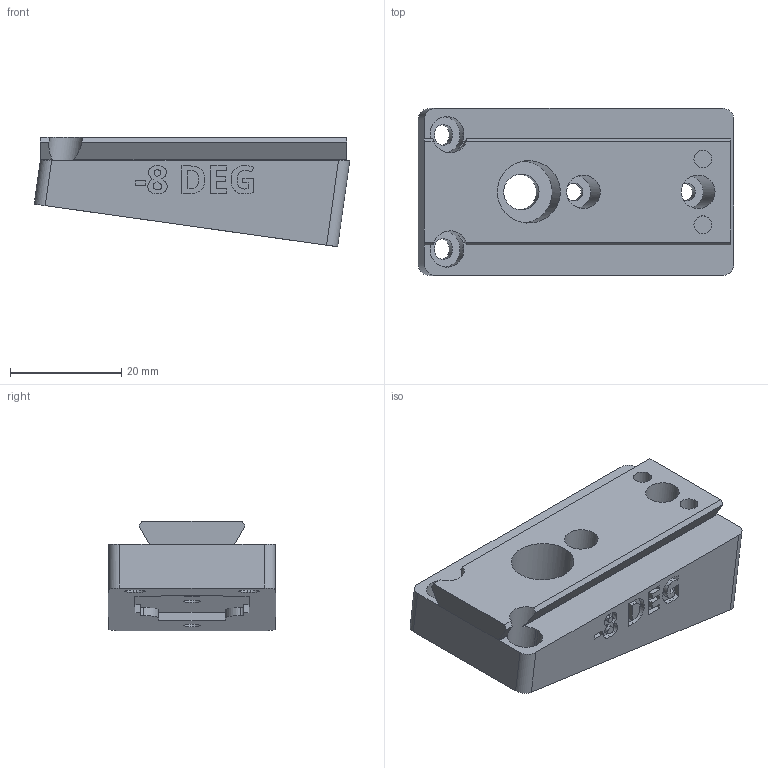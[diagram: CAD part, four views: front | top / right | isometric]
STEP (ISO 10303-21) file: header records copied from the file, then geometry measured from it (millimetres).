
FILE_DESCRIPTION(/* description */ ('STEP AP242 Edition 2','CAx-IF Rec.Pracs.---Representation and Presentation of Product Manufacturing Information (PMI)---4.0---2014-10-13','CAx-IF Rec.Pracs.---3D Tessellated Geometry---0.4---2014-09-14','2;1','CAx-IF Rec.Pracs.---User Defined Attributes---1.5---2016-08-15'),/* implementation_level */ '2;1');
FILE_NAME(/* name */ 'Camera Wedges - CAMERA MOUNTING WEDGE, NEG, -8 DEG',/* time_stamp */ '2026-08-11T00:11:30Z',/* author */ (''),/* organization */ (''),/* preprocessor_version */ 'ST-DEVELOPER v20',/* originating_system */ 'ONSHAPE BY PTC INC, 1.219',/* authorisation */ ' ');
FILE_SCHEMA (('AP242_MANAGED_MODEL_BASED_3D_ENGINEERING_MIM_LF { 1 0 10303 442 3 1 4 }'));
Length unit declared in the file: metre
Products named in the file (1): CAMERA MOUNTING WEDGE, NEG, -8 DEG
Bounding box: 56.65 x 30 x 19.65 mm (x, y, z)
Volume: 20062.2 mm3; surface area: 7637.3 mm2
Topology: 1 solids, 1 shells, 249 faces, 673 edges, 448 vertices
Faces by surface type: plane 123, bspline 78, cylinder 48
Full cylindrical faces by diameter (mm): 3.2 x4, 6 x2, 6.4 x1, 11.2 x1
Entity records: 8073 total; most frequent: CARTESIAN_POINT 2221, ORIENTED_EDGE 1330, DIRECTION 961, EDGE_CURVE 665, VERTEX_POINT 448, LINE 401, VECTOR 401, EDGE_LOOP 289
